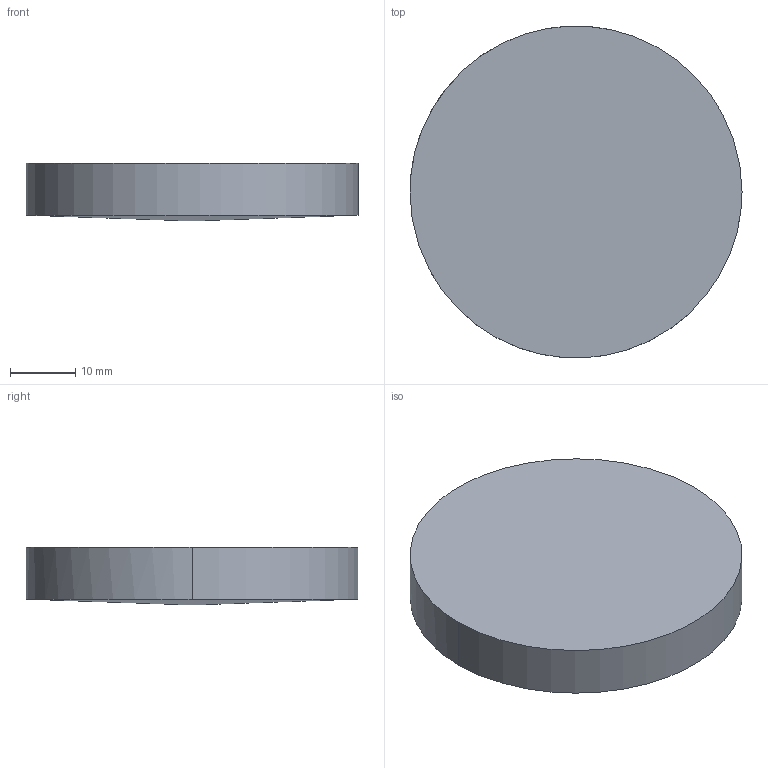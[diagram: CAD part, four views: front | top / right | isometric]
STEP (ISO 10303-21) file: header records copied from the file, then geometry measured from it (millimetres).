
FILE_DESCRIPTION ((), '1');
FILE_NAME ('\\fileserver\Daten\Applikationen\Optikdesign\SPA-Design\aktuelle SPA-Designs\Linsenkataloge - 2016-Juni\Zemax\XFL\XFL50-020.STP', '2016-05-24T14:29:48', ('Unknown'), ('Unknown'), 'HarmonyWare STEP v2.0.1', 'HarmonyWare Translators', '');
FILE_SCHEMA (('CONFIG_CONTROL_DESIGN'));
Length unit declared in the file: millimetre
Products named in the file (1): NONE
Bounding box: 50.8 x 50.77 x 8.87 mm (x, y, z)
Volume: 16788.8 mm3; surface area: 5332.7 mm2
Topology: 1 solids, 1 shells, 4 faces, 9 edges, 6 vertices
Faces by surface type: cylinder 2, bspline 1, plane 1
Entity records: 275 total; most frequent: CARTESIAN_POINT 124, ORIENTED_EDGE 16, EDGE_CURVE 8, PERSON 8, ORGANIZATION 8, PERSON_AND_ORGANIZATION 8, VERTEX_POINT 6, DIRECTION 6
